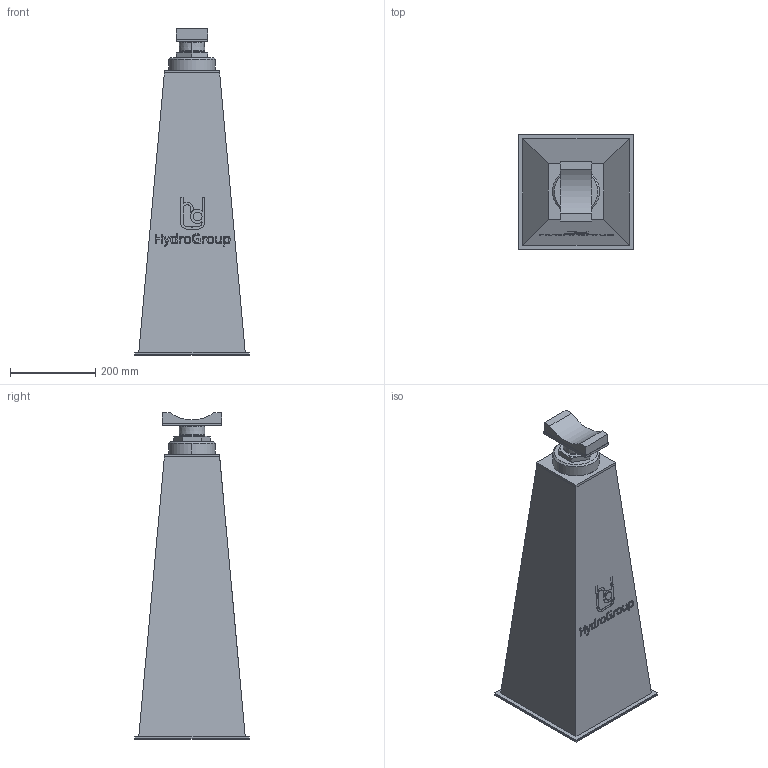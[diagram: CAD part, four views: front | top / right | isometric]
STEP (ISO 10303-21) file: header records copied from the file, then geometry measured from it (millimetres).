
FILE_DESCRIPTION(('STEP AP214'),'1');
FILE_NAME('RSRFE-I_DN150.stp','2018-06-27T12:46:58',(' '),(' '),'Spatial InterOp 3D',' ',' ');
FILE_SCHEMA(('automotive_design'));
Length unit declared in the file: millimetre
Products named in the file (6): 1; 2; 3; 4; 5; 6
Bounding box: 270 x 270 x 767 mm (x, y, z)
Volume: 26360740.2 mm3; surface area: 901685.5 mm2
Topology: 6 solids, 6 shells, 223 faces, 552 edges, 361 vertices
Faces by surface type: plane 145, cylinder 30, extrusion 24, cone 20, torus 4
Entity records: 8998 total; most frequent: CARTESIAN_POINT 1816, ORIENTED_EDGE 1104, DIRECTION 1017, EDGE_CURVE 552, VECTOR 425, LINE 401, VERTEX_POINT 361, AXIS2_PLACEMENT_3D 296
